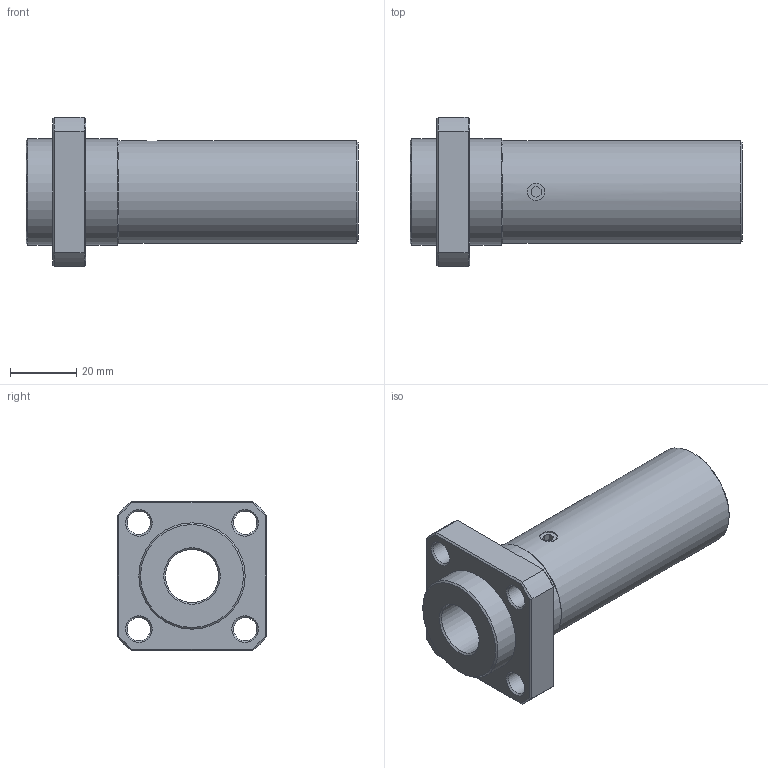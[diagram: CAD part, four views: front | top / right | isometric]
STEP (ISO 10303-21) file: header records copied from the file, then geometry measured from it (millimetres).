
FILE_DESCRIPTION(('STEP AP203'),'1');
FILE_NAME('//192.168.1.1/share/s-4 技術開発/s-4-14_個人別フォルダ/橋詰/09_CAD_DATA/3D/HP用/3Ｄモデル/LCF/LCF-BL/LCF-16BLUU.step','2021-12-09T05:10:48',(' '),(' '),'Spatial InterOp 3D',' ',' ');
FILE_SCHEMA(('CONFIG_CONTROL_DESIGN'));
Length unit declared in the file: millimetre
Products named in the file (2): 1; 2
Bounding box: 100 x 45 x 45 mm (x, y, z)
Volume: 66912.1 mm3; surface area: 19665 mm2
Topology: 2 solids, 2 shells, 62 faces, 143 edges, 86 vertices
Faces by surface type: plane 25, cone 23, cylinder 14
Full cylindrical faces by diameter (mm): 5.25 x1, 6 x1, 7 x4, 16 x1, 31 x1, 32 x2
Entity records: 1770 total; most frequent: CARTESIAN_POINT 420, DIRECTION 266, ORIENTED_EDGE 216, AXIS2_PLACEMENT_3D 112, EDGE_CURVE 108, EDGE_LOOP 102, VERTEX_POINT 78, FACE_OUTER_BOUND 72
